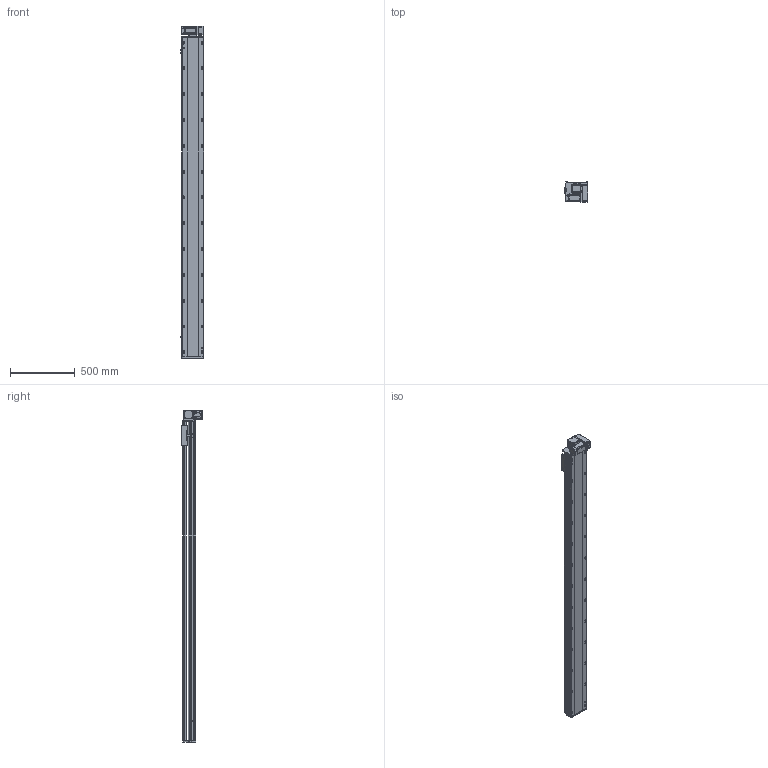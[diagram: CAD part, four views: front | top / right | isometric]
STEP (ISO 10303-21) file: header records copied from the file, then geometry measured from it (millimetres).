
FILE_DESCRIPTION (( 'STEP AP214' ), '1' );
FILE_NAME ('RTB17S-XX-2200-RM-M40-C4.STEP', '2025-12-11T08:27:46', ( '' ), ( '' ), 'SwSTEP 2.0', 'SolidWorks 2018', '' );
FILE_SCHEMA (( 'AUTOMOTIVE_DESIGN' ));
Length unit declared in the file: millimetre
Products named in the file (14): RTB17S-L-014-T20--々湍釱^RTB17S-RM-々湍釱蚾饜-400W_RTB17S-XX-XX-RM-M40-C4; RTB17S-L-004佪裝蹟譫蟀諉釱^RTB17S-XX-XX-RM-M40-C4; RTB14-L-017P^RTB17S-RM-々湍釱蚾饜-400W_RTB17S-XX-XX-RM-M40-C4; OMRON EE-SX672 传感器^RTB17S-XX-XX-RM-M40-C4; 400W侜督萇儂^RTB17S-XX-XX-RM-M40-C4; RTB17-R-011菁釱^RTB17S-XX-XX-RM-M40-C4; RTB17S-XX-2200-RM-M40-C4; RTB14-L-008-M20--萇儂啣^RTB17S-RM-々湍釱蚾饜-400W_RTB17S-XX-XX-RM-M40-C4; RTB17S-L-007奻裔^RTB17S-XX-XX-RM-M40-C4; RTB14-L-005P--轴承塑胶压盖^RTB17S-RM-皮带座装配-400W_RTB17S-XX-XX-RM-M40-C4; RTH13-BL-012覜茼え俋离^RTB17S-XX-XX-RM-M40-C4; RTB17S-RM-々湍釱蚾饜-400W^RTB17S-XX-XX-RM-M40-C4; RTB17S-L-001耜醱啣^RTB17S-XX-XX-RM-M40-C4; RTB14-L-018P^RTB17S-RM-々湍釱蚾饜-400W_RTB17S-XX-XX-RM-M40-C4
Assembly tree (16 placements, depth 3):
  RTB17S-XX-2200-RM-M40-C4
    RTB17-R-011菁釱^RTB17S-XX-XX-RM-M40-C4
    RTB17S-L-007奻裔^RTB17S-XX-XX-RM-M40-C4
    OMRON EE-SX672 传感器^RTB17S-XX-XX-RM-M40-C4  x3
    RTB17S-L-001耜醱啣^RTB17S-XX-XX-RM-M40-C4
    400W侜督萇儂^RTB17S-XX-XX-RM-M40-C4
    RTB17S-L-004佪裝蹟譫蟀諉釱^RTB17S-XX-XX-RM-M40-C4
    RTH13-BL-012覜茼え俋离^RTB17S-XX-XX-RM-M40-C4
    RTB17S-RM-々湍釱蚾饜-400W^RTB17S-XX-XX-RM-M40-C4
      RTB17S-L-014-T20--々湍釱^RTB17S-RM-々湍釱蚾饜-400W_RTB17S-XX-XX-RM-M40-C4
      RTB14-L-005P--轴承塑胶压盖^RTB17S-RM-皮带座装配-400W_RTB17S-XX-XX-RM-M40-C4
      RTB14-L-008-M20--萇儂啣^RTB17S-RM-々湍釱蚾饜-400W_RTB17S-XX-XX-RM-M40-C4
      RTB14-L-017P^RTB17S-RM-々湍釱蚾饜-400W_RTB17S-XX-XX-RM-M40-C4  x2
      RTB14-L-018P^RTB17S-RM-々湍釱蚾饜-400W_RTB17S-XX-XX-RM-M40-C4
Bounding box: 183.5 x 156.5 x 2572.5 mm (x, y, z)
Volume: 22162872.7 mm3; surface area: 2564315.2 mm2
Topology: 15 solids, 15 shells, 2301 faces, 6411 edges, 4185 vertices
Faces by surface type: plane 1080, cylinder 773, bspline 301, cone 139, torus 8
Entity records: 67241 total; most frequent: CARTESIAN_POINT 19016, ORIENTED_EDGE 9666, DIRECTION 8936, EDGE_CURVE 4833, VERTEX_POINT 3173, AXIS2_PLACEMENT_3D 3103, VECTOR 2730, LINE 2730
